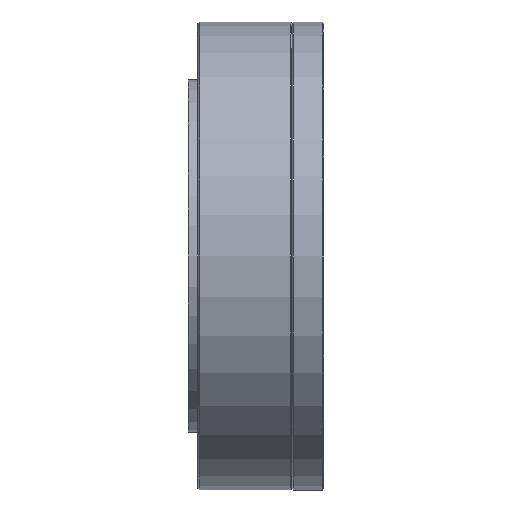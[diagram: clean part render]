
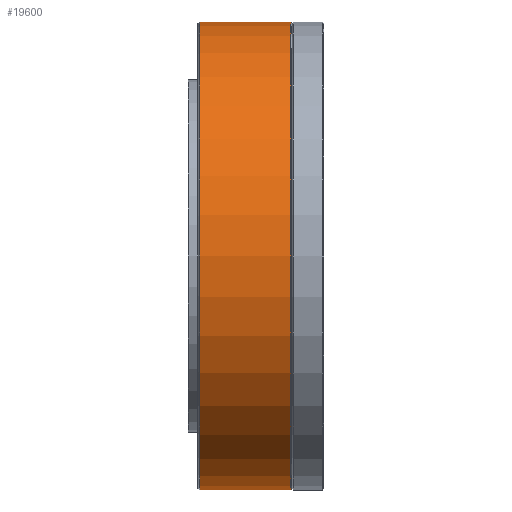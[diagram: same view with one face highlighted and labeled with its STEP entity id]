
A CAD part, front view. The second image highlights one B-rep face of the part: STEP entity #19600.
In plain terms, the highlighted cylindrical face has radius 71 mm (diameter 142 mm), a partial arc.
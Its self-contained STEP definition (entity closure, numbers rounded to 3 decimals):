
#992 = CIRCLE ( 'NONE', #8856, 71. ) ;
#1389 = EDGE_LOOP ( 'NONE', ( #20138, #5090, #3930, #17493 ) ) ;
#1659 = VECTOR ( 'NONE', #7105, 1000. ) ;
#1694 = AXIS2_PLACEMENT_3D ( 'NONE', #18390, #2635, #4623 ) ;
#2536 = CARTESIAN_POINT ( 'NONE',  ( 37.577, 0., 71. ) ) ;
#2635 = DIRECTION ( 'NONE',  ( -1., 0., 0. ) ) ;
#3151 = DIRECTION ( 'NONE',  ( -1., 0., 0. ) ) ;
#3622 = VERTEX_POINT ( 'NONE', #9573 ) ;
#3923 = VERTEX_POINT ( 'NONE', #24873 ) ;
#3930 = ORIENTED_EDGE ( 'NONE', *, *, #24094, .T. ) ;
#4595 = EDGE_CURVE ( 'NONE', #3923, #15349, #6890, .T. ) ;
#4623 = DIRECTION ( 'NONE',  ( 0., 0., 1. ) ) ;
#5090 = ORIENTED_EDGE ( 'NONE', *, *, #6322, .T. ) ;
#6322 = EDGE_CURVE ( 'NONE', #3923, #8186, #992, .T. ) ;
#6890 = LINE ( 'NONE', #18904, #1659 ) ;
#7105 = DIRECTION ( 'NONE',  ( -1., 0., 0. ) ) ;
#7337 = CARTESIAN_POINT ( 'NONE',  ( 9.9, 0., 0. ) ) ;
#8186 = VERTEX_POINT ( 'NONE', #2536 ) ;
#8856 = AXIS2_PLACEMENT_3D ( 'NONE', #14950, #3151, #16913 ) ;
#9322 = DIRECTION ( 'NONE',  ( 0., 0., 1. ) ) ;
#9573 = CARTESIAN_POINT ( 'NONE',  ( 9.9, 0., 71. ) ) ;
#12356 = CIRCLE ( 'NONE', #15945, 71. ) ;
#14066 = CYLINDRICAL_SURFACE ( 'NONE', #1694, 71. ) ;
#14950 = CARTESIAN_POINT ( 'NONE',  ( 37.577, 0., 0. ) ) ;
#15349 = VERTEX_POINT ( 'NONE', #18597 ) ;
#15945 = AXIS2_PLACEMENT_3D ( 'NONE', #7337, #21129, #9322 ) ;
#16913 = DIRECTION ( 'NONE',  ( 0., 0., 1. ) ) ;
#16918 = VECTOR ( 'NONE', #24771, 1000. ) ;
#17493 = ORIENTED_EDGE ( 'NONE', *, *, #23471, .F. ) ;
#18174 = LINE ( 'NONE', #22766, #16918 ) ;
#18390 = CARTESIAN_POINT ( 'NONE',  ( 0., 0., 0. ) ) ;
#18597 = CARTESIAN_POINT ( 'NONE',  ( 9.9, 0., -71. ) ) ;
#18904 = CARTESIAN_POINT ( 'NONE',  ( 0., 0., -71. ) ) ;
#19287 = FACE_OUTER_BOUND ( 'NONE', #1389, .T. ) ;
#19600 = ADVANCED_FACE ( 'NONE', ( #19287 ), #14066, .T. ) ;
#20138 = ORIENTED_EDGE ( 'NONE', *, *, #4595, .F. ) ;
#21129 = DIRECTION ( 'NONE',  ( -1., 0., 0. ) ) ;
#22766 = CARTESIAN_POINT ( 'NONE',  ( 0., 0., 71. ) ) ;
#23471 = EDGE_CURVE ( 'NONE', #15349, #3622, #12356, .T. ) ;
#24094 = EDGE_CURVE ( 'NONE', #8186, #3622, #18174, .T. ) ;
#24771 = DIRECTION ( 'NONE',  ( -1., 0., 0. ) ) ;
#24873 = CARTESIAN_POINT ( 'NONE',  ( 37.577, 0., -71. ) ) ;
